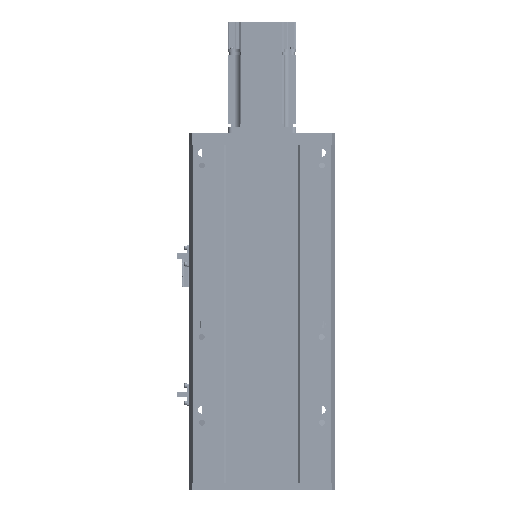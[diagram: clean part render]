
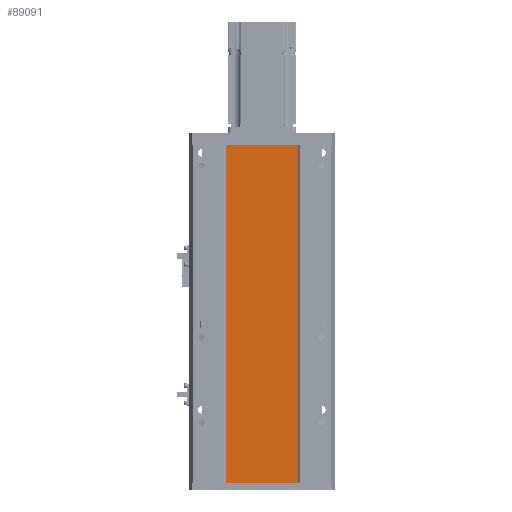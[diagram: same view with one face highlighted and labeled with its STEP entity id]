
A CAD part, front view. The second image highlights one B-rep face of the part: STEP entity #89091.
In plain terms, the highlighted planar face has unit normal (0, -1, 0).
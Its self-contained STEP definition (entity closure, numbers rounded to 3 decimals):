
#2500 = CARTESIAN_POINT ( 'NONE',  ( -42., 0., 0. ) ) ;
#2706 = CARTESIAN_POINT ( 'NONE',  ( -42., 0., -395. ) ) ;
#7325 = VERTEX_POINT ( 'NONE', #79312 ) ;
#10359 = DIRECTION ( 'NONE',  ( 0., 0., 1. ) ) ;
#12041 = DIRECTION ( 'NONE',  ( 0., 0., -1. ) ) ;
#13047 = EDGE_CURVE ( 'NONE', #40175, #59833, #70242, .T. ) ;
#15528 = ORIENTED_EDGE ( 'NONE', *, *, #13047, .F. ) ;
#29472 = CARTESIAN_POINT ( 'NONE',  ( -42., 0., -395. ) ) ;
#30726 = VECTOR ( 'NONE', #10359, 1000. ) ;
#32624 = FACE_OUTER_BOUND ( 'NONE', #92628, .T. ) ;
#33127 = VECTOR ( 'NONE', #96568, 1000. ) ;
#38171 = ORIENTED_EDGE ( 'NONE', *, *, #91570, .T. ) ;
#40175 = VERTEX_POINT ( 'NONE', #43666 ) ;
#42069 = CARTESIAN_POINT ( 'NONE',  ( 42., 0., -395. ) ) ;
#42518 = PLANE ( 'NONE',  #72663 ) ;
#43666 = CARTESIAN_POINT ( 'NONE',  ( -42., 0., 0. ) ) ;
#49929 = VERTEX_POINT ( 'NONE', #29472 ) ;
#50187 = CARTESIAN_POINT ( 'NONE',  ( -42., 0., -395. ) ) ;
#53154 = CARTESIAN_POINT ( 'NONE',  ( 42., 0., 0. ) ) ;
#54216 = EDGE_CURVE ( 'NONE', #49929, #40175, #91843, .T. ) ;
#55547 = ORIENTED_EDGE ( 'NONE', *, *, #54216, .F. ) ;
#57881 = DIRECTION ( 'NONE',  ( 0., -1., 0. ) ) ;
#58354 = EDGE_CURVE ( 'NONE', #7325, #59833, #77520, .T. ) ;
#59833 = VERTEX_POINT ( 'NONE', #53154 ) ;
#66257 = ORIENTED_EDGE ( 'NONE', *, *, #58354, .T. ) ;
#70242 = LINE ( 'NONE', #2500, #99120 ) ;
#72663 = AXIS2_PLACEMENT_3D ( 'NONE', #50187, #57881, #12041 ) ;
#75110 = VECTOR ( 'NONE', #87988, 1000. ) ;
#77520 = LINE ( 'NONE', #42069, #75110 ) ;
#79312 = CARTESIAN_POINT ( 'NONE',  ( 42., 0., -395. ) ) ;
#80786 = CARTESIAN_POINT ( 'NONE',  ( -42., 0., -395. ) ) ;
#86541 = DIRECTION ( 'NONE',  ( 1., 0., 0. ) ) ;
#87988 = DIRECTION ( 'NONE',  ( 0., 0., 1. ) ) ;
#89091 = ADVANCED_FACE ( 'NONE', ( #32624 ), #42518, .T. ) ;
#91570 = EDGE_CURVE ( 'NONE', #49929, #7325, #94272, .T. ) ;
#91843 = LINE ( 'NONE', #2706, #30726 ) ;
#92628 = EDGE_LOOP ( 'NONE', ( #15528, #55547, #38171, #66257 ) ) ;
#94272 = LINE ( 'NONE', #80786, #33127 ) ;
#96568 = DIRECTION ( 'NONE',  ( 1., 0., 0. ) ) ;
#99120 = VECTOR ( 'NONE', #86541, 1000. ) ;
